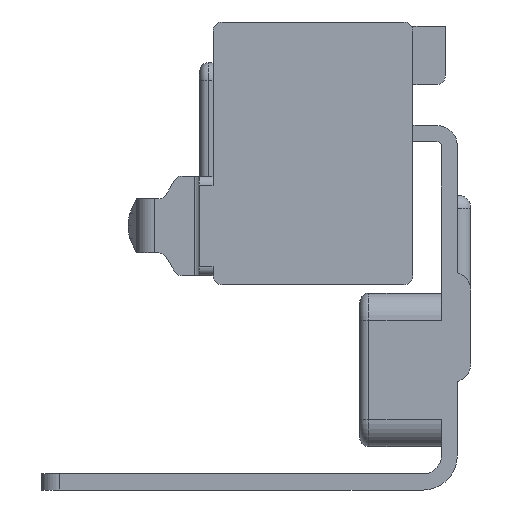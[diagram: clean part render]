
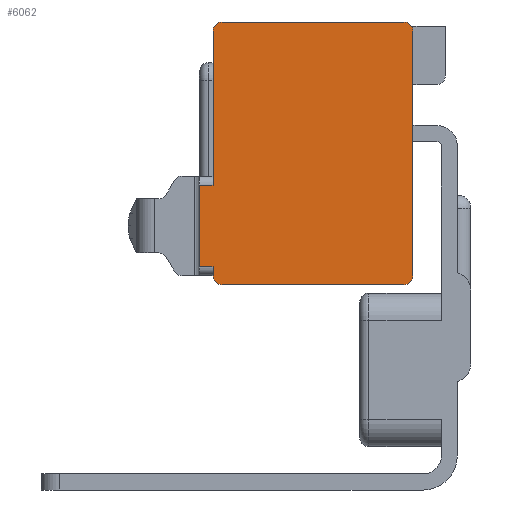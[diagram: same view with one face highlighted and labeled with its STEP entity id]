
A CAD part, left-side view. The second image highlights one B-rep face of the part: STEP entity #6062.
In plain terms, the highlighted planar face has unit normal (-1, 0, 0).
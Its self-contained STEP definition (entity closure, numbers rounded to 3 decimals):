
#73 = ORIENTED_EDGE ( 'NONE', *, *, #6706, .F. ) ;
#83 = FACE_OUTER_BOUND ( 'NONE', #1860, .T. ) ;
#89 = DIRECTION ( 'NONE',  ( 0., -1., 0. ) ) ;
#244 = DIRECTION ( 'NONE',  ( 0., 0., -1. ) ) ;
#318 = CARTESIAN_POINT ( 'NONE',  ( -283., 26., 87.49 ) ) ;
#320 = CARTESIAN_POINT ( 'NONE',  ( -283., 27., 60.46 ) ) ;
#512 = ORIENTED_EDGE ( 'NONE', *, *, #4982, .F. ) ;
#591 = CARTESIAN_POINT ( 'NONE',  ( -283., 4.9, 60.46 ) ) ;
#615 = DIRECTION ( 'NONE',  ( 0., 1., 0. ) ) ;
#646 = VECTOR ( 'NONE', #3770, 1000. ) ;
#743 = VERTEX_POINT ( 'NONE', #3886 ) ;
#791 = DIRECTION ( 'NONE',  ( 0., 1., 0. ) ) ;
#868 = DIRECTION ( 'NONE',  ( 0., 1., 0. ) ) ;
#930 = CIRCLE ( 'NONE', #1839, 1. ) ;
#947 = LINE ( 'NONE', #1662, #3569 ) ;
#1015 = LINE ( 'NONE', #3345, #5011 ) ;
#1084 = CARTESIAN_POINT ( 'NONE',  ( -283., 5.9, 60.46 ) ) ;
#1115 = DIRECTION ( 'NONE',  ( 0., 1., 0. ) ) ;
#1134 = DIRECTION ( 'NONE',  ( 0., -1., 0. ) ) ;
#1179 = VERTEX_POINT ( 'NONE', #591 ) ;
#1214 = DIRECTION ( 'NONE',  ( 1., 0., 0. ) ) ;
#1416 = CARTESIAN_POINT ( 'NONE',  ( -283., 4.9, 87.49 ) ) ;
#1419 = ORIENTED_EDGE ( 'NONE', *, *, #4683, .F. ) ;
#1452 = EDGE_CURVE ( 'NONE', #4287, #2224, #5710, .T. ) ;
#1589 = ORIENTED_EDGE ( 'NONE', *, *, #6407, .F. ) ;
#1620 = AXIS2_PLACEMENT_3D ( 'NONE', #4960, #3419, #244 ) ;
#1642 = DIRECTION ( 'NONE',  ( 0., 1., 0. ) ) ;
#1662 = CARTESIAN_POINT ( 'NONE',  ( -283., 28.5, 61.46 ) ) ;
#1678 = CARTESIAN_POINT ( 'NONE',  ( -283., 28.5, 70.46 ) ) ;
#1693 = CARTESIAN_POINT ( 'NONE',  ( -283., 28.5, 61.46 ) ) ;
#1792 = LINE ( 'NONE', #1678, #4186 ) ;
#1794 = EDGE_CURVE ( 'NONE', #2897, #2188, #2594, .T. ) ;
#1795 = EDGE_CURVE ( 'NONE', #3990, #1179, #1015, .T. ) ;
#1839 = AXIS2_PLACEMENT_3D ( 'NONE', #1084, #4730, #1642 ) ;
#1841 = CIRCLE ( 'NONE', #2479, 1. ) ;
#1860 = EDGE_LOOP ( 'NONE', ( #2672, #512, #2281, #73, #3873, #2261, #5064, #2646, #1419, #1589, #5442, #5804 ) ) ;
#1964 = LINE ( 'NONE', #6102, #5876 ) ;
#2094 = LINE ( 'NONE', #3263, #6149 ) ;
#2107 = VERTEX_POINT ( 'NONE', #3824 ) ;
#2188 = VERTEX_POINT ( 'NONE', #320 ) ;
#2224 = VERTEX_POINT ( 'NONE', #5308 ) ;
#2243 = CARTESIAN_POINT ( 'NONE',  ( -283., 26., 60.46 ) ) ;
#2261 = ORIENTED_EDGE ( 'NONE', *, *, #5459, .F. ) ;
#2281 = ORIENTED_EDGE ( 'NONE', *, *, #6233, .F. ) ;
#2307 = VERTEX_POINT ( 'NONE', #6200 ) ;
#2479 = AXIS2_PLACEMENT_3D ( 'NONE', #318, #3985, #868 ) ;
#2594 = CIRCLE ( 'NONE', #5951, 1. ) ;
#2646 = ORIENTED_EDGE ( 'NONE', *, *, #1794, .F. ) ;
#2672 = ORIENTED_EDGE ( 'NONE', *, *, #4324, .F. ) ;
#2746 = CARTESIAN_POINT ( 'NONE',  ( -283., 28.5, 60.46 ) ) ;
#2857 = DIRECTION ( 'NONE',  ( 0., 0., 1. ) ) ;
#2897 = VERTEX_POINT ( 'NONE', #3858 ) ;
#2904 = VERTEX_POINT ( 'NONE', #5472 ) ;
#3052 = DIRECTION ( 'NONE',  ( 0., 0., 1. ) ) ;
#3113 = CARTESIAN_POINT ( 'NONE',  ( -283., 27., 61.46 ) ) ;
#3168 = EDGE_CURVE ( 'NONE', #2307, #3990, #4615, .T. ) ;
#3263 = CARTESIAN_POINT ( 'NONE',  ( -283., 5.9, 88.49 ) ) ;
#3272 = DIRECTION ( 'NONE',  ( 0., 0., 1. ) ) ;
#3345 = CARTESIAN_POINT ( 'NONE',  ( -283., 4.9, 60.46 ) ) ;
#3419 = DIRECTION ( 'NONE',  ( 1., 0., 0. ) ) ;
#3442 = LINE ( 'NONE', #4800, #646 ) ;
#3569 = VECTOR ( 'NONE', #1115, 1000. ) ;
#3770 = DIRECTION ( 'NONE',  ( 0., 1., 0. ) ) ;
#3782 = EDGE_CURVE ( 'NONE', #2188, #4128, #3945, .T. ) ;
#3824 = CARTESIAN_POINT ( 'NONE',  ( -283., 5.9, 59.46 ) ) ;
#3858 = CARTESIAN_POINT ( 'NONE',  ( -283., 26., 59.46 ) ) ;
#3873 = ORIENTED_EDGE ( 'NONE', *, *, #1452, .F. ) ;
#3886 = CARTESIAN_POINT ( 'NONE',  ( -283., 26., 88.49 ) ) ;
#3945 = LINE ( 'NONE', #5823, #5158 ) ;
#3985 = DIRECTION ( 'NONE',  ( 1., 0., 0. ) ) ;
#3990 = VERTEX_POINT ( 'NONE', #1416 ) ;
#4112 = CARTESIAN_POINT ( 'NONE',  ( -283., 5.9, 87.49 ) ) ;
#4128 = VERTEX_POINT ( 'NONE', #3113 ) ;
#4186 = VECTOR ( 'NONE', #1134, 1000. ) ;
#4287 = VERTEX_POINT ( 'NONE', #1693 ) ;
#4324 = EDGE_CURVE ( 'NONE', #743, #2307, #2094, .T. ) ;
#4531 = VECTOR ( 'NONE', #2857, 1000. ) ;
#4615 = CIRCLE ( 'NONE', #5173, 1. ) ;
#4683 = EDGE_CURVE ( 'NONE', #2107, #2897, #3442, .T. ) ;
#4718 = VERTEX_POINT ( 'NONE', #5325 ) ;
#4730 = DIRECTION ( 'NONE',  ( 1., 0., 0. ) ) ;
#4800 = CARTESIAN_POINT ( 'NONE',  ( -283., 5.9, 59.46 ) ) ;
#4960 = CARTESIAN_POINT ( 'NONE',  ( -283., 28.5, 60.46 ) ) ;
#4982 = EDGE_CURVE ( 'NONE', #4718, #743, #1841, .T. ) ;
#5011 = VECTOR ( 'NONE', #5363, 1000. ) ;
#5064 = ORIENTED_EDGE ( 'NONE', *, *, #3782, .F. ) ;
#5074 = DIRECTION ( 'NONE',  ( 1., 0., 0. ) ) ;
#5158 = VECTOR ( 'NONE', #3272, 1000. ) ;
#5173 = AXIS2_PLACEMENT_3D ( 'NONE', #4112, #5074, #791 ) ;
#5308 = CARTESIAN_POINT ( 'NONE',  ( -283., 28.5, 70.46 ) ) ;
#5325 = CARTESIAN_POINT ( 'NONE',  ( -283., 27., 87.49 ) ) ;
#5363 = DIRECTION ( 'NONE',  ( 0., 0., -1. ) ) ;
#5442 = ORIENTED_EDGE ( 'NONE', *, *, #1795, .F. ) ;
#5459 = EDGE_CURVE ( 'NONE', #4128, #4287, #947, .T. ) ;
#5472 = CARTESIAN_POINT ( 'NONE',  ( -283., 27., 70.46 ) ) ;
#5710 = LINE ( 'NONE', #2746, #4531 ) ;
#5804 = ORIENTED_EDGE ( 'NONE', *, *, #3168, .F. ) ;
#5823 = CARTESIAN_POINT ( 'NONE',  ( -283., 27., 87.49 ) ) ;
#5876 = VECTOR ( 'NONE', #3052, 1000. ) ;
#5951 = AXIS2_PLACEMENT_3D ( 'NONE', #2243, #1214, #615 ) ;
#6062 = ADVANCED_FACE ( 'NONE', ( #83 ), #6458, .F. ) ;
#6102 = CARTESIAN_POINT ( 'NONE',  ( -283., 27., 87.49 ) ) ;
#6149 = VECTOR ( 'NONE', #89, 1000. ) ;
#6200 = CARTESIAN_POINT ( 'NONE',  ( -283., 5.9, 88.49 ) ) ;
#6233 = EDGE_CURVE ( 'NONE', #2904, #4718, #1964, .T. ) ;
#6407 = EDGE_CURVE ( 'NONE', #1179, #2107, #930, .T. ) ;
#6458 = PLANE ( 'NONE',  #1620 ) ;
#6706 = EDGE_CURVE ( 'NONE', #2224, #2904, #1792, .T. ) ;
